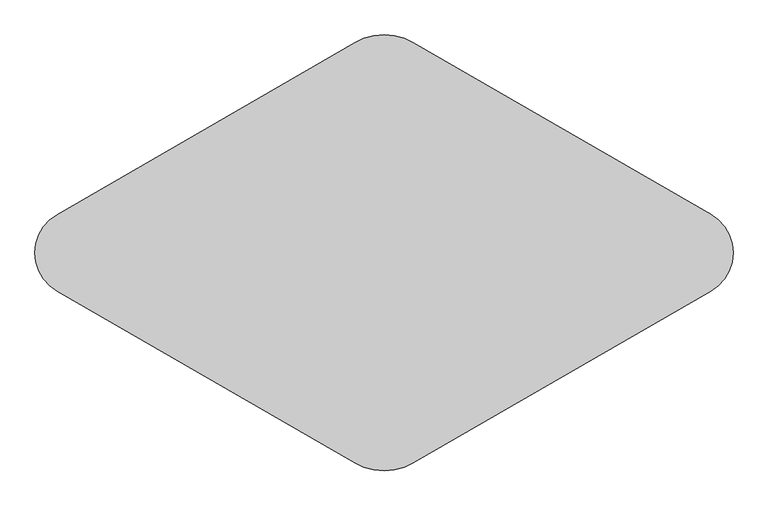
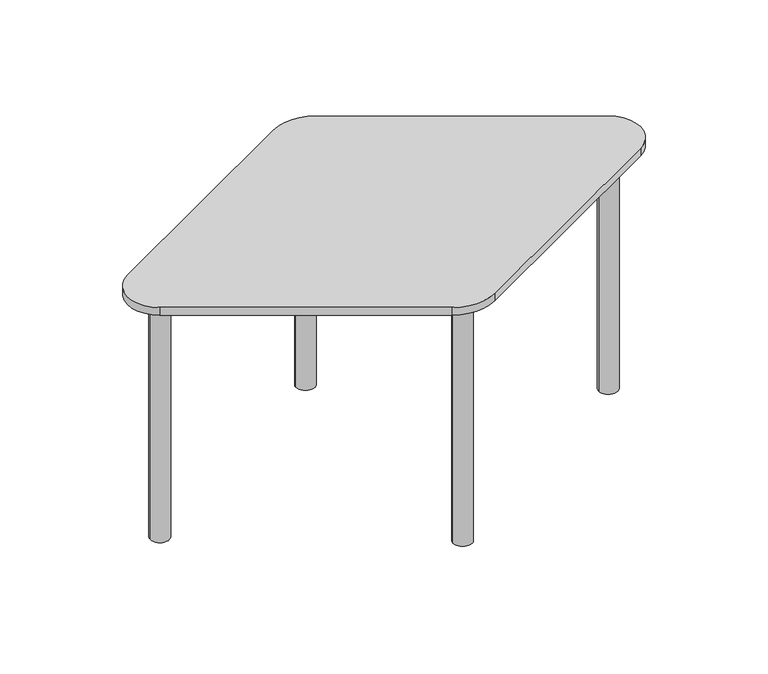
"""IFC4 building model written with IfcOpenShell, lengths in millimetres: furniture geometry, Salmiakki : Legs without Castors."""

from ifc_helpers import new_model, si_unit, point, frame, frame_2d, origin, origin_with_axes, place, context, project, spatial, polyline, circle_curve, trimmed, segment, composite_curve, outline, extrude, source, transform, mapped, element, save


def furniture_9eec207e(model_context):
    return source(origin(), model_context, "Body", "SweptSolid", [
        extrude(outline(composite_curve([segment(trimmed(circle_curve(frame_2d((-0.0001485, -369.94205)), 26.0), [point((-26.0001485, -369.94205))], [point((25.9998515, -369.94205))], False, "CARTESIAN"), True, "CONTINUOUS"), segment(trimmed(circle_curve(frame_2d((-0.0001485, -369.94205)), 26.0), [point((25.9998515, -369.94205))], [point((-26.0001485, -369.94205))], False, "CARTESIAN"), True, "CONTINUOUS")], self_intersect=False)), origin_with_axes(), (0.0, 0.0, 1.0), 698.0),
        extrude(outline(composite_curve([segment(trimmed(circle_curve(frame_2d((-0.0001485, 370.05795)), 26.0), [point((-26.0001485, 370.05795))], [point((25.9998515, 370.05795))], False, "CARTESIAN"), True, "CONTINUOUS"), segment(trimmed(circle_curve(frame_2d((-0.0001485, 370.05795)), 26.0), [point((25.9998515, 370.05795))], [point((-26.0001485, 370.05795))], False, "CARTESIAN"), True, "CONTINUOUS")], self_intersect=False)), origin_with_axes(), (0.0, 0.0, 1.0), 698.0),
        extrude(outline(composite_curve([segment(trimmed(circle_curve(frame_2d((609.6242438, 0.05795)), 26.0), [point((583.6242438, 0.05795))], [point((635.6242438, 0.05795))], False, "CARTESIAN"), True, "CONTINUOUS"), segment(trimmed(circle_curve(frame_2d((609.6242438, 0.05795)), 26.0), [point((635.6242438, 0.05795))], [point((583.6242438, 0.05795))], False, "CARTESIAN"), True, "CONTINUOUS")], self_intersect=False)), origin_with_axes(), (0.0, 0.0, 1.0), 698.0),
        extrude(outline(composite_curve([segment(trimmed(circle_curve(frame_2d((-609.8016163, 0.05795)), 26.0), [point((-635.8016163, 0.05795))], [point((-583.8016163, 0.05795))], False, "CARTESIAN"), True, "CONTINUOUS"), segment(trimmed(circle_curve(frame_2d((-609.8016163, 0.05795)), 26.0), [point((-583.8016163, 0.05795))], [point((-635.8016163, 0.05795))], False, "CARTESIAN"), True, "CONTINUOUS")], self_intersect=False)), origin_with_axes(), (0.0, 0.0, 1.0), 698.0),
        extrude(outline(composite_curve([segment(polyline([(-653.9945269, 76.5913393), (-58.6829066, 420.0855047)]), True, "CONTINUOUS"), segment(trimmed(circle_curve(frame_2d((-0.0001485, 318.4440975)), 117.3654198), [point((-58.6829066, 420.0855047))], [point((58.6825244, 420.0855539))], False, "CARTESIAN"), True, "CONTINUOUS"), segment(polyline([(58.6825244, 420.0855539), (653.8614125, 76.668687)]), True, "CONTINUOUS"), segment(trimmed(circle_curve(frame_2d((609.6242438, 0.0475988)), 88.4743932), [point((653.8614125, 76.668687))], [point((653.8614802, -76.5734503))], False, "CARTESIAN"), True, "CONTINUOUS"), segment(polyline([(653.8614802, -76.5734503), (58.7326395, -420.1716582)]), True, "CONTINUOUS"), segment(trimmed(circle_curve(frame_2d((0.0001346, -318.4440975)), 117.4649043), [point((58.7326395, -420.1716582))], [point((-58.7322748, -420.1717134))], False, "CARTESIAN"), True, "CONTINUOUS"), segment(polyline([(-58.7322748, -420.1717134), (-653.9944584, -76.4972658)]), True, "CONTINUOUS"), segment(trimmed(circle_curve(frame_2d((-609.8016163, 0.0470565)), 88.3857487), [point((-653.9944584, -76.4972658))], [point((-653.9945269, 76.5913393))], False, "CARTESIAN"), True, "CONTINUOUS")], self_intersect=False)), frame((0.0, 0.0, 698.1423426), z_axis=(0.0, 0.0, 1.0), x_axis=(1.0, 0.0, 0.0)), (0.0, 0.0, 1.0), 21.9999653),
    ])


if __name__ == "__main__":
    model = new_model("IFC4")
    model_context = context("Model", 3, world=origin())
    ifc_project = project(units=[si_unit("LENGTHUNIT", "METRE", prefix="MILLI")], contexts=[model_context])
    site = spatial("IfcSite", under=ifc_project)
    building = spatial("IfcBuilding", under=site)
    placement = place(None, origin())
    furniture_shape = furniture_9eec207e(model_context)
    element("IfcFurniture", 1, ObjectType="Salmiakki : Legs without Castors", at=placement, inside=building, context=model_context, shape_type="MappedRepresentation", body=[
        mapped(furniture_shape, transform((0.0, 0.0, 0.0), x_axis=(1.0, 0.0, 0.0), y_axis=(0.0, 1.0, 0.0), z_axis=(0.0, 0.0, 1.0))),
    ])
    save(model, "model.ifc")
